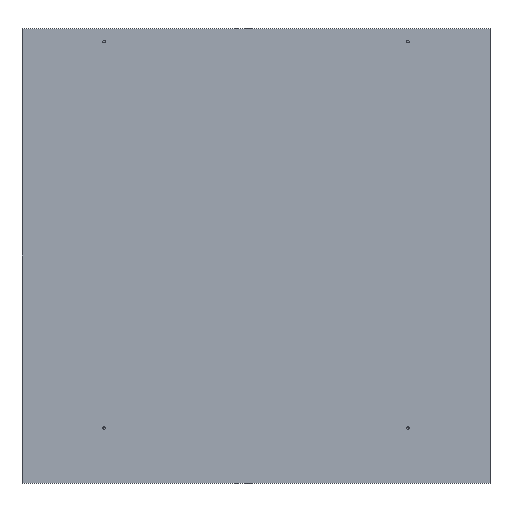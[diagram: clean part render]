
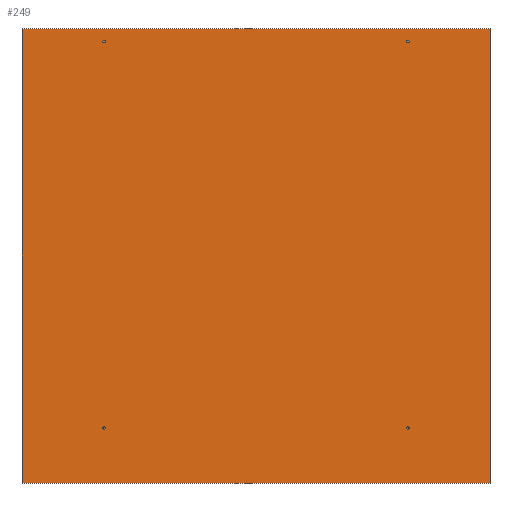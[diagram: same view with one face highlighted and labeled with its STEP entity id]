
A CAD part, front view. The second image highlights one B-rep face of the part: STEP entity #249.
In plain terms, the highlighted planar face has unit normal (0, -1, 0).
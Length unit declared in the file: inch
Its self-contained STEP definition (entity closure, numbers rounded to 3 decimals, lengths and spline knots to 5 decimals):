
#2=DIRECTION('',(1.,0.,0.));
#3=VECTOR('',#2,22.576);
#4=CARTESIAN_POINT('',(-11.288,0.,10.969));
#5=LINE('',#4,#3);
#6=DIRECTION('',(0.,0.,-1.));
#7=VECTOR('',#6,21.938);
#8=CARTESIAN_POINT('',(11.288,0.,10.969));
#9=LINE('',#8,#7);
#10=DIRECTION('',(-1.,0.,0.));
#11=VECTOR('',#10,22.576);
#12=CARTESIAN_POINT('',(11.288,0.,-10.969));
#13=LINE('',#12,#11);
#14=DIRECTION('',(0.,0.,1.));
#15=VECTOR('',#14,21.938);
#16=CARTESIAN_POINT('',(-11.288,0.,-10.969));
#17=LINE('',#16,#15);
#18=CARTESIAN_POINT('',(-7.327,0.,-8.304));
#19=DIRECTION('',(0.,-1.,0.));
#20=DIRECTION('',(-1.,0.,0.));
#21=AXIS2_PLACEMENT_3D('',#18,#19,#20);
#23=CARTESIAN_POINT('',(-7.327,0.,-8.304));
#24=DIRECTION('',(0.,-1.,0.));
#25=DIRECTION('',(1.,0.,0.));
#26=AXIS2_PLACEMENT_3D('',#23,#24,#25);
#28=CARTESIAN_POINT('',(-7.327,0.,10.344));
#29=DIRECTION('',(0.,-1.,0.));
#30=DIRECTION('',(-1.,0.,0.));
#31=AXIS2_PLACEMENT_3D('',#28,#29,#30);
#33=CARTESIAN_POINT('',(-7.327,0.,10.344));
#34=DIRECTION('',(0.,-1.,0.));
#35=DIRECTION('',(1.,0.,0.));
#36=AXIS2_PLACEMENT_3D('',#33,#34,#35);
#38=CARTESIAN_POINT('',(7.327,0.,-8.304));
#39=DIRECTION('',(0.,-1.,0.));
#40=DIRECTION('',(-1.,0.,0.));
#41=AXIS2_PLACEMENT_3D('',#38,#39,#40);
#43=CARTESIAN_POINT('',(7.327,0.,-8.304));
#44=DIRECTION('',(0.,-1.,0.));
#45=DIRECTION('',(1.,0.,0.));
#46=AXIS2_PLACEMENT_3D('',#43,#44,#45);
#48=CARTESIAN_POINT('',(7.327,0.,10.344));
#49=DIRECTION('',(0.,-1.,0.));
#50=DIRECTION('',(-1.,0.,0.));
#51=AXIS2_PLACEMENT_3D('',#48,#49,#50);
#53=CARTESIAN_POINT('',(7.327,0.,10.344));
#54=DIRECTION('',(0.,-1.,0.));
#55=DIRECTION('',(1.,0.,0.));
#56=AXIS2_PLACEMENT_3D('',#53,#54,#55);
#162=CARTESIAN_POINT('',(-11.288,0.,10.969));
#163=CARTESIAN_POINT('',(11.288,0.,10.969));
#164=VERTEX_POINT('',#162);
#165=VERTEX_POINT('',#163);
#166=CARTESIAN_POINT('',(11.288,0.,-10.969));
#167=VERTEX_POINT('',#166);
#168=CARTESIAN_POINT('',(-11.288,0.,-10.969));
#169=VERTEX_POINT('',#168);
#186=CARTESIAN_POINT('',(-7.386,0.,-8.304));
#187=CARTESIAN_POINT('',(-7.268,0.,-8.304));
#188=VERTEX_POINT('',#186);
#189=VERTEX_POINT('',#187);
#190=CARTESIAN_POINT('',(-7.386,0.,10.344));
#191=CARTESIAN_POINT('',(-7.268,0.,10.344));
#192=VERTEX_POINT('',#190);
#193=VERTEX_POINT('',#191);
#202=CARTESIAN_POINT('',(7.268,0.,-8.304));
#203=CARTESIAN_POINT('',(7.386,0.,-8.304));
#204=VERTEX_POINT('',#202);
#205=VERTEX_POINT('',#203);
#206=CARTESIAN_POINT('',(7.268,0.,10.344));
#207=CARTESIAN_POINT('',(7.386,0.,10.344));
#208=VERTEX_POINT('',#206);
#209=VERTEX_POINT('',#207);
#210=CARTESIAN_POINT('',(0.,0.,0.));
#211=DIRECTION('',(0.,1.,0.));
#212=DIRECTION('',(1.,0.,0.));
#213=AXIS2_PLACEMENT_3D('',#210,#211,#212);
#214=PLANE('',#213);
#216=ORIENTED_EDGE('',*,*,#215,.T.);
#218=ORIENTED_EDGE('',*,*,#217,.T.);
#220=ORIENTED_EDGE('',*,*,#219,.T.);
#222=ORIENTED_EDGE('',*,*,#221,.T.);
#223=EDGE_LOOP('',(#216,#218,#220,#222));
#224=FACE_OUTER_BOUND('',#223,.F.);
#226=ORIENTED_EDGE('',*,*,#225,.T.);
#228=ORIENTED_EDGE('',*,*,#227,.T.);
#229=EDGE_LOOP('',(#226,#228));
#230=FACE_BOUND('',#229,.F.);
#232=ORIENTED_EDGE('',*,*,#231,.T.);
#234=ORIENTED_EDGE('',*,*,#233,.T.);
#235=EDGE_LOOP('',(#232,#234));
#236=FACE_BOUND('',#235,.F.);
#238=ORIENTED_EDGE('',*,*,#237,.T.);
#240=ORIENTED_EDGE('',*,*,#239,.T.);
#241=EDGE_LOOP('',(#238,#240));
#242=FACE_BOUND('',#241,.F.);
#244=ORIENTED_EDGE('',*,*,#243,.T.);
#246=ORIENTED_EDGE('',*,*,#245,.T.);
#247=EDGE_LOOP('',(#244,#246));
#248=FACE_BOUND('',#247,.F.);
#249=ADVANCED_FACE('',(#224,#230,#236,#242,#248),#214,.F.);
#22=CIRCLE('',#21,0.059);
#27=CIRCLE('',#26,0.059);
#32=CIRCLE('',#31,0.059);
#37=CIRCLE('',#36,0.059);
#42=CIRCLE('',#41,0.059);
#47=CIRCLE('',#46,0.059);
#52=CIRCLE('',#51,0.059);
#57=CIRCLE('',#56,0.059);
#215=EDGE_CURVE('',#164,#165,#5,.T.);
#217=EDGE_CURVE('',#165,#167,#9,.T.);
#219=EDGE_CURVE('',#167,#169,#13,.T.);
#221=EDGE_CURVE('',#169,#164,#17,.T.);
#225=EDGE_CURVE('',#188,#189,#22,.T.);
#227=EDGE_CURVE('',#189,#188,#27,.T.);
#231=EDGE_CURVE('',#192,#193,#32,.T.);
#233=EDGE_CURVE('',#193,#192,#37,.T.);
#237=EDGE_CURVE('',#204,#205,#42,.T.);
#239=EDGE_CURVE('',#205,#204,#47,.T.);
#243=EDGE_CURVE('',#208,#209,#52,.T.);
#245=EDGE_CURVE('',#209,#208,#57,.T.);
